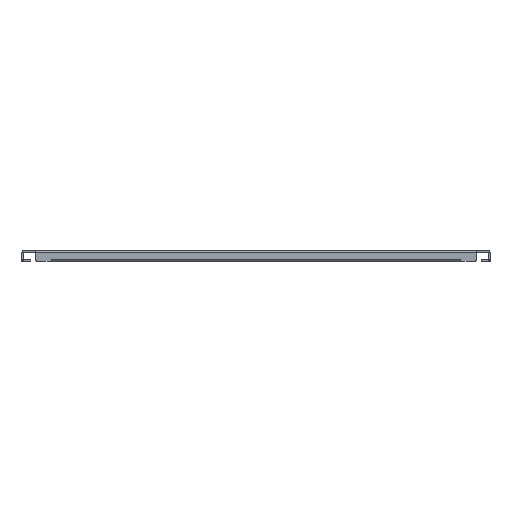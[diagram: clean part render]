
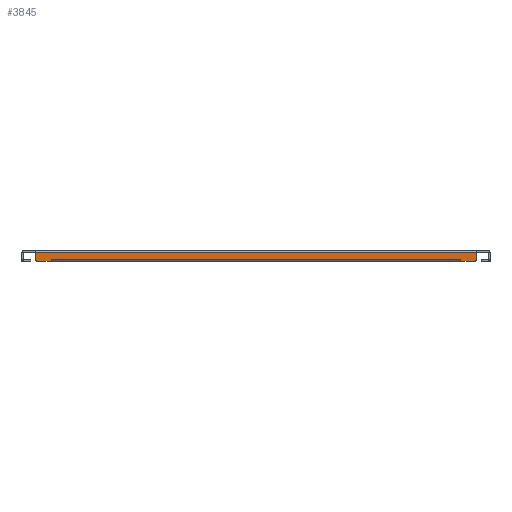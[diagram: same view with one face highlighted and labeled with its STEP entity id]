
A CAD part, front view. The second image highlights one B-rep face of the part: STEP entity #3845.
In plain terms, the highlighted planar face has unit normal (0, -1, 0).
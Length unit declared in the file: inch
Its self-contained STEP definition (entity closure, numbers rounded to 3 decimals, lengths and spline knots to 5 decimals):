
#117=PLANE('',#4194);
#269=FACE_OUTER_BOUND('',#509,.T.);
#509=EDGE_LOOP('',(#3133,#3134,#3135,#3136,#3137,#3138,#3139,#3140,#3141,
#3142,#3143,#3144,#3145,#3146));
#800=LINE('',#6060,#1198);
#820=LINE('',#6128,#1218);
#838=LINE('',#6189,#1236);
#841=LINE('',#6194,#1239);
#842=LINE('',#6198,#1240);
#843=LINE('',#6200,#1241);
#844=LINE('',#6202,#1242);
#845=LINE('',#6204,#1243);
#846=LINE('',#6206,#1244);
#847=LINE('',#6208,#1245);
#848=LINE('',#6210,#1246);
#849=LINE('',#6211,#1247);
#1198=VECTOR('',#4909,0.3937);
#1218=VECTOR('',#4963,0.3937);
#1236=VECTOR('',#5013,0.3937);
#1239=VECTOR('',#5018,0.3937);
#1240=VECTOR('',#5021,0.3937);
#1241=VECTOR('',#5022,0.3937);
#1242=VECTOR('',#5023,0.3937);
#1243=VECTOR('',#5024,0.3937);
#1244=VECTOR('',#5025,0.3937);
#1245=VECTOR('',#5026,0.3937);
#1246=VECTOR('',#5027,0.3937);
#1247=VECTOR('',#5028,0.3937);
#1521=CIRCLE('',#4192,0.125);
#1522=CIRCLE('',#4195,0.125);
#1776=VERTEX_POINT('',#6057);
#1777=VERTEX_POINT('',#6059);
#1807=VERTEX_POINT('',#6125);
#1808=VERTEX_POINT('',#6127);
#1834=VERTEX_POINT('',#6184);
#1835=VERTEX_POINT('',#6188);
#1837=VERTEX_POINT('',#6195);
#1838=VERTEX_POINT('',#6197);
#1839=VERTEX_POINT('',#6199);
#1840=VERTEX_POINT('',#6201);
#1841=VERTEX_POINT('',#6203);
#1842=VERTEX_POINT('',#6205);
#1843=VERTEX_POINT('',#6207);
#1844=VERTEX_POINT('',#6209);
#2242=EDGE_CURVE('',#1777,#1776,#800,.T.);
#2276=EDGE_CURVE('',#1808,#1807,#820,.T.);
#2305=EDGE_CURVE('',#1808,#1834,#1521,.T.);
#2307=EDGE_CURVE('',#1835,#1834,#838,.T.);
#2310=EDGE_CURVE('',#1777,#1807,#841,.T.);
#2311=EDGE_CURVE('',#1837,#1776,#1522,.T.);
#2312=EDGE_CURVE('',#1837,#1838,#842,.T.);
#2313=EDGE_CURVE('',#1838,#1839,#843,.T.);
#2314=EDGE_CURVE('',#1839,#1840,#844,.T.);
#2315=EDGE_CURVE('',#1840,#1841,#845,.T.);
#2316=EDGE_CURVE('',#1841,#1842,#846,.T.);
#2317=EDGE_CURVE('',#1842,#1843,#847,.T.);
#2318=EDGE_CURVE('',#1843,#1844,#848,.T.);
#2319=EDGE_CURVE('',#1844,#1835,#849,.T.);
#3133=ORIENTED_EDGE('',*,*,#2305,.F.);
#3134=ORIENTED_EDGE('',*,*,#2276,.T.);
#3135=ORIENTED_EDGE('',*,*,#2310,.F.);
#3136=ORIENTED_EDGE('',*,*,#2242,.T.);
#3137=ORIENTED_EDGE('',*,*,#2311,.F.);
#3138=ORIENTED_EDGE('',*,*,#2312,.T.);
#3139=ORIENTED_EDGE('',*,*,#2313,.T.);
#3140=ORIENTED_EDGE('',*,*,#2314,.T.);
#3141=ORIENTED_EDGE('',*,*,#2315,.T.);
#3142=ORIENTED_EDGE('',*,*,#2316,.T.);
#3143=ORIENTED_EDGE('',*,*,#2317,.T.);
#3144=ORIENTED_EDGE('',*,*,#2318,.T.);
#3145=ORIENTED_EDGE('',*,*,#2319,.T.);
#3146=ORIENTED_EDGE('',*,*,#2307,.T.);
#3845=ADVANCED_FACE('',(#269),#117,.F.);
#4192=AXIS2_PLACEMENT_3D('',#6185,#5008,#5009);
#4194=AXIS2_PLACEMENT_3D('',#6193,#5016,#5017);
#4195=AXIS2_PLACEMENT_3D('',#6196,#5019,#5020);
#4909=DIRECTION('',(0.,0.,-1.));
#4963=DIRECTION('',(0.,0.,1.));
#5008=DIRECTION('center_axis',(0.,1.,0.));
#5009=DIRECTION('ref_axis',(0.707,0.,-0.707));
#5013=DIRECTION('',(1.,0.,0.));
#5016=DIRECTION('center_axis',(0.,1.,0.));
#5017=DIRECTION('ref_axis',(0.,0.,1.));
#5018=DIRECTION('',(1.,0.,0.));
#5019=DIRECTION('center_axis',(0.,1.,0.));
#5020=DIRECTION('ref_axis',(-0.707,0.,-0.707));
#5021=DIRECTION('',(1.,0.,0.));
#5022=DIRECTION('',(0.,0.,1.));
#5023=DIRECTION('',(1.,0.,0.));
#5024=DIRECTION('',(0.,0.,-1.));
#5025=DIRECTION('',(1.,0.,0.));
#5026=DIRECTION('',(0.,0.,1.));
#5027=DIRECTION('',(1.,0.,0.));
#5028=DIRECTION('',(0.,0.,-1.));
#6057=CARTESIAN_POINT('',(-10.4375,-24.25,-0.319));
#6059=CARTESIAN_POINT('',(-10.4375,-24.25,-0.031));
#6060=CARTESIAN_POINT('',(-10.4375,-24.25,0.068));
#6125=CARTESIAN_POINT('',(10.4375,-24.25,-0.031));
#6127=CARTESIAN_POINT('',(10.4375,-24.25,-0.319));
#6128=CARTESIAN_POINT('',(10.4375,-24.25,-0.444));
#6184=CARTESIAN_POINT('',(10.3125,-24.25,-0.444));
#6185=CARTESIAN_POINT('Origin',(10.3125,-24.25,-0.319));
#6188=CARTESIAN_POINT('',(9.6877,-24.25,-0.444));
#6189=CARTESIAN_POINT('',(-10.4375,-24.25,-0.444));
#6193=CARTESIAN_POINT('Origin',(0.,-24.25,-0.188));
#6194=CARTESIAN_POINT('',(10.4375,-24.25,-0.031));
#6195=CARTESIAN_POINT('',(-10.3125,-24.25,-0.444));
#6196=CARTESIAN_POINT('Origin',(-10.3125,-24.25,-0.319));
#6197=CARTESIAN_POINT('',(-9.6877,-24.25,-0.444));
#6198=CARTESIAN_POINT('',(-10.4375,-24.25,-0.444));
#6199=CARTESIAN_POINT('',(-9.6877,-24.25,-0.3448));
#6200=CARTESIAN_POINT('',(-9.6877,-24.25,-0.316));
#6201=CARTESIAN_POINT('',(-9.6875,-24.25,-0.3448));
#6202=CARTESIAN_POINT('',(-4.84385,-24.25,-0.3448));
#6203=CARTESIAN_POINT('',(-9.6875,-24.25,-0.345));
#6204=CARTESIAN_POINT('',(-9.6875,-24.25,-0.2664));
#6205=CARTESIAN_POINT('',(9.6875,-24.25,-0.345));
#6206=CARTESIAN_POINT('',(4.84375,-24.25,-0.345));
#6207=CARTESIAN_POINT('',(9.6875,-24.25,-0.3448));
#6208=CARTESIAN_POINT('',(9.6875,-24.25,-0.316));
#6209=CARTESIAN_POINT('',(9.6877,-24.25,-0.3448));
#6210=CARTESIAN_POINT('',(4.84375,-24.25,-0.3448));
#6211=CARTESIAN_POINT('',(9.6877,-24.25,-0.2664));
